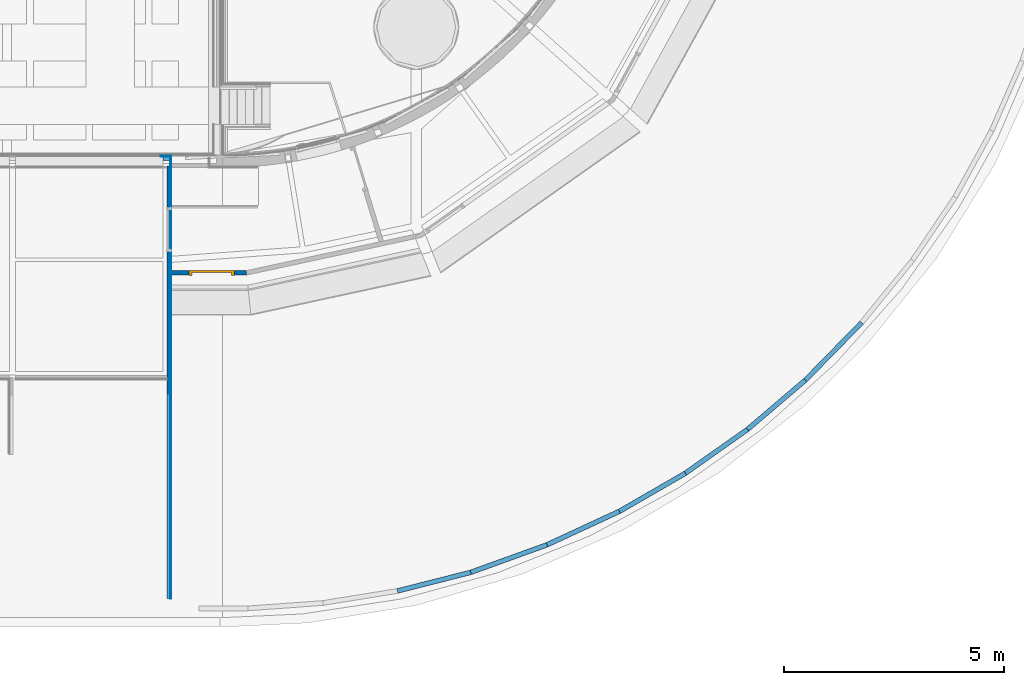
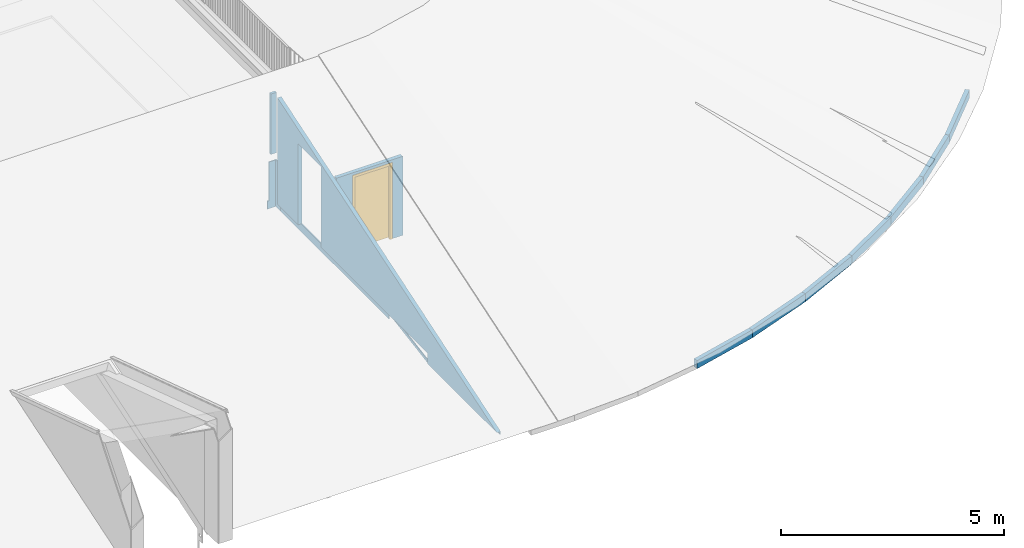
# One storey, part 27 of 66: 13 walls, 1 door, 6 openings.
"""IFC2X3 building model written with IfcOpenShell, lengths in millimetres."""

from ifc_helpers import new_model, entity, si_unit, converted_unit, derived_unit, direction, frame, frame_2d, origin, place, context, subcontext, project, spatial, polyline, rectangle, outline, extrude, clip, halfspace, faceted_brep, source, transform, mapped, material, material_list, layer, layer_set, layer_usage, type_object, type_shapes, element, fill, save


model = new_model("IFC2X3")

# Units and contexts
model_context = context("Model", 3, precision=0.01, world=origin(), true_north=direction((6.12303176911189e-17, 1.0)))
body_context = subcontext(model_context, "Body", "Model", "MODEL_VIEW")
ifc_project = project(units=[si_unit("LENGTHUNIT", "METRE", prefix="MILLI"), si_unit("AREAUNIT", "SQUARE_METRE"), si_unit("VOLUMEUNIT", "CUBIC_METRE"), converted_unit("PLANEANGLEUNIT", "DEGREE", entity("IfcRatioMeasure", 0.0174532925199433), si_unit("PLANEANGLEUNIT", "RADIAN"), dimensions=[0, 0, 0, 0, 0, 0, 0]), si_unit("MASSUNIT", "GRAM", prefix="KILO"), derived_unit("MASSDENSITYUNIT", [(si_unit("MASSUNIT", "GRAM", prefix="KILO"), 1), (si_unit("LENGTHUNIT", "METRE"), -3)]), derived_unit("MOMENTOFINERTIAUNIT", [(si_unit("LENGTHUNIT", "METRE"), 4)]), si_unit("TIMEUNIT", "SECOND"), si_unit("FREQUENCYUNIT", "HERTZ"), si_unit("THERMODYNAMICTEMPERATUREUNIT", "DEGREE_CELSIUS"), derived_unit("THERMALTRANSMITTANCEUNIT", [(si_unit("MASSUNIT", "GRAM", prefix="KILO"), 1), (si_unit("THERMODYNAMICTEMPERATUREUNIT", "KELVIN"), -1), (si_unit("TIMEUNIT", "SECOND"), -3)]), derived_unit("VOLUMETRICFLOWRATEUNIT", [(si_unit("LENGTHUNIT", "METRE"), 3), (si_unit("TIMEUNIT", "SECOND"), -1)]), si_unit("ELECTRICCURRENTUNIT", "AMPERE"), si_unit("ELECTRICVOLTAGEUNIT", "VOLT"), si_unit("POWERUNIT", "WATT"), si_unit("FORCEUNIT", "NEWTON", prefix="KILO"), si_unit("ILLUMINANCEUNIT", "LUX"), si_unit("LUMINOUSFLUXUNIT", "LUMEN"), si_unit("LUMINOUSINTENSITYUNIT", "CANDELA"), derived_unit("USERDEFINED", [(si_unit("MASSUNIT", "GRAM", prefix="KILO"), -1), (si_unit("LENGTHUNIT", "METRE"), -2), (si_unit("TIMEUNIT", "SECOND"), 3), (si_unit("LUMINOUSFLUXUNIT", "LUMEN"), 1)]), derived_unit("LINEARVELOCITYUNIT", [(si_unit("LENGTHUNIT", "METRE"), 1), (si_unit("TIMEUNIT", "SECOND"), -1)]), si_unit("PRESSUREUNIT", "PASCAL"), derived_unit("USERDEFINED", [(si_unit("LENGTHUNIT", "METRE"), -2), (si_unit("MASSUNIT", "GRAM", prefix="KILO"), 1), (si_unit("TIMEUNIT", "SECOND"), -2)]), derived_unit("LINEARFORCEUNIT", [(si_unit("MASSUNIT", "GRAM", prefix="KILO"), 1), (si_unit("LENGTHUNIT", "METRE"), 1), (si_unit("TIMEUNIT", "SECOND"), -2), (si_unit("LENGTHUNIT", "METRE"), -1)]), derived_unit("PLANARFORCEUNIT", [(si_unit("MASSUNIT", "GRAM", prefix="KILO"), 1), (si_unit("LENGTHUNIT", "METRE"), 1), (si_unit("TIMEUNIT", "SECOND"), -2), (si_unit("LENGTHUNIT", "METRE"), -2)])], contexts=[model_context])

# Site, building, storey
site_placement = place(None, origin())
site = spatial("IfcSite", under=ifc_project, at=site_placement, Name="Default", CompositionType="ELEMENT")
building_placement = place(site_placement, origin())
building = spatial("IfcBuilding", under=site, at=building_placement, Name="-", CompositionType="ELEMENT")
storey_placement = place(building_placement, frame((0.0, 0.0, 3070.0)))
storey = spatial("IfcBuildingStorey", under=building, at=storey_placement, Name="01 eerste verdieping", CompositionType="ELEMENT", Elevation=3070.00000000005)

# Walls
ifc_material_1 = material(Name="NLRS_i4_hout_multiplex")
ifc_layer_1 = layer(ifc_material_1, 9.0)
ifc_material_2 = material(Name="NLRS_m1_isolatie")
ifc_layer_2 = layer(ifc_material_2, 89.0)
ifc_layer_3 = layer(ifc_material_1, 9.0)
ifc_layer_set_1 = layer_set([ifc_layer_1, ifc_layer_2, ifc_layer_3], Name="Basic Wall:NLRS_21_WA_HSB-wand_110mm")
ifc_layer_usage_1 = layer_usage(ifc_layer_set_1, "AXIS2", "NEGATIVE", 53.5)
wall_type_1 = type_object("IfcWallType", Name="Basic Wall:NLRS_21_WA_HSB-wand_110mm", PredefinedType="STANDARD", material=ifc_layer_set_1)
wall_1_placement = place(storey_placement, frame((56297.9267876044, 943.129507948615, -370.0), z_axis=(0.0, 0.0, 1.0), x_axis=(-0.969239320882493, -0.246120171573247, 0.0)))
element("IfcWallStandardCase", 1, at=wall_1_placement, inside=storey, type_object=wall_type_1, material=ifc_layer_usage_1, Name="Basic Wall:NLRS_21_WA_HSB-wand_110mm", ObjectType="Basic Wall:NLRS_21_WA_HSB-wand_110mm", context=body_context, shape_type="SweptSolid", body=[
    extrude(outline(polyline([(1720.3849009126, -53.5000000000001), (1725.11328838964, 53.5000000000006), (0.0, 53.5000000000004), (5.26109802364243, -53.5000000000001), (1720.3849009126, -53.5000000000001)])), origin(), (0.0, 0.0, 1.0), 220.000000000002),
])
ifc_layer_usage_2 = layer_usage(ifc_layer_set_1, "AXIS2", "NEGATIVE", 53.5)
wall_2_placement = place(storey_placement, frame((58030.9854901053, 1570.00564350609, -370.0), z_axis=(0.0, 0.0, 1.0), x_axis=(-0.940419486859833, -0.340016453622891, 0.0)))
element("IfcWallStandardCase", 2, at=wall_2_placement, inside=storey, type_object=wall_type_1, material=ifc_layer_usage_2, Name="Basic Wall:NLRS_21_WA_HSB-wand_110mm", ObjectType="Basic Wall:NLRS_21_WA_HSB-wand_110mm", context=body_context, shape_type="SweptSolid", body=[
    extrude(outline(polyline([(1842.93768759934, -53.5000000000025), (1848.19878562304, 53.499999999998), (0.0, 53.4999999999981), (4.60406770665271, -53.5000000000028), (1842.93768759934, -53.5000000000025)])), origin(), (0.0, 0.0, 1.0), 220.000000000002),
])
ifc_layer_usage_3 = layer_usage(ifc_layer_set_1, "AXIS2", "NEGATIVE", 53.5)
wall_3_placement = place(storey_placement, frame((59678.6542802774, 2331.74735848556, -370.0), z_axis=(0.0, 0.0, 1.0), x_axis=(-0.9077367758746, -0.419540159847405, 0.0)))
element("IfcWallStandardCase", 3, at=wall_3_placement, inside=storey, type_object=wall_type_1, material=ifc_layer_usage_3, Name="Basic Wall:NLRS_21_WA_HSB-wand_110mm", ObjectType="Basic Wall:NLRS_21_WA_HSB-wand_110mm", context=body_context, shape_type="SweptSolid", body=[
    extrude(outline(polyline([(1815.2222876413, -53.5), (1819.82635534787, 53.5000000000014), (0.0, 53.5000000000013), (4.85884156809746, -53.5000000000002), (1815.2222876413, -53.5)])), origin(), (0.0, 0.0, 1.0), 220.000000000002),
])
ifc_layer_usage_4 = layer_usage(ifc_layer_set_1, "AXIS2", "NEGATIVE", 53.5)
wall_4_placement = place(storey_placement, frame((61177.2536980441, 3197.41228200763, -370.0), z_axis=(0.0, 0.0, 1.0), x_axis=(-0.865976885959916, -0.500084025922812, 0.0)))
element("IfcWallStandardCase", 4, at=wall_4_placement, inside=storey, type_object=wall_type_1, material=ifc_layer_usage_4, Name="Basic Wall:NLRS_21_WA_HSB-wand_110mm", ObjectType="Basic Wall:NLRS_21_WA_HSB-wand_110mm", context=body_context, shape_type="SweptSolid", body=[
    extrude(outline(polyline([(1730.64765862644, -53.4999999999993), (1735.50650019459, 53.4999999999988), (0.0, 53.4999999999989), (4.86175354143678, -53.4999999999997), (1730.64765862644, -53.4999999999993)])), origin(), (0.0, 0.0, 1.0), 220.000000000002),
])
ifc_layer_usage_5 = layer_usage(ifc_layer_set_1, "AXIS2", "NEGATIVE", 53.5)
wall_5_placement = place(storey_placement, frame((62589.1775839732, 4194.00488383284, -370.0), z_axis=(0.0, 0.0, 1.0), x_axis=(-0.817057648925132, -0.576555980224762, 0.0)))
element("IfcWallStandardCase", 5, at=wall_5_placement, inside=storey, type_object=wall_type_1, material=ifc_layer_usage_5, Name="Basic Wall:NLRS_21_WA_HSB-wand_110mm", ObjectType="Basic Wall:NLRS_21_WA_HSB-wand_110mm", context=body_context, shape_type="SweptSolid", body=[
    extrude(outline(polyline([(1728.20461863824, -53.4999999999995), (1733.06637217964, 53.4999999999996), (0.0, 53.4999999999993), (4.8588415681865, -53.4999999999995), (1728.20461863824, -53.4999999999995)])), origin(), (0.0, 0.0, 1.0), 220.000000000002),
])
ifc_layer_usage_6 = layer_usage(ifc_layer_set_1, "AXIS2", "NEGATIVE", 53.5)
wall_6_placement = place(storey_placement, frame((63904.9722117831, 5314.46647797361, -370.0), z_axis=(0.0, 0.0, 1.0), x_axis=(-0.761440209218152, -0.648235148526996, 0.0)))
element("IfcWallStandardCase", 6, at=wall_6_placement, inside=storey, type_object=wall_type_1, material=ifc_layer_usage_6, Name="Basic Wall:NLRS_21_WA_HSB-wand_110mm", ObjectType="Basic Wall:NLRS_21_WA_HSB-wand_110mm", context=body_context, shape_type="SweptSolid", body=[
    extrude(outline(polyline([(1728.21152605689, -53.499999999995), (1733.07036762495, 53.5000000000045), (0.0, 53.5000000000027), (4.8588415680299, -53.4999999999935), (1728.21152605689, -53.499999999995)])), origin(), (0.0, 0.0, 1.0), 220.000000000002),
])
ifc_layer_usage_7 = layer_usage(ifc_layer_set_1, "AXIS2", "NEGATIVE", 53.5)
wall_7_placement = place(storey_placement, frame((65185.3589787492, 6622.66505655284, -370.0), z_axis=(0.0, 0.0, 1.0), x_axis=(-0.699555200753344, -0.714578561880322, 0.0)))
element("IfcWallStandardCase", 7, at=wall_7_placement, inside=storey, type_object=wall_type_1, material=ifc_layer_usage_7, Name="Basic Wall:NLRS_21_WA_HSB-wand_110mm", ObjectType="Basic Wall:NLRS_21_WA_HSB-wand_110mm", context=body_context, shape_type="SweptSolid", body=[
    extrude(outline(polyline([(1830.50188221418, -53.4999999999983), (1835.36072378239, 53.4999999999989), (0.0, 53.4999999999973), (4.85301764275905, -53.4999999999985), (1830.50188221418, -53.4999999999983)])), origin(), (0.0, 0.0, 1.0), 220.000000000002),
])

# Wall, openings
ifc_material_3 = material(Name="NLRS_f7_gipsplaat_gen")
ifc_layer_4 = layer(ifc_material_3, 12.5)
ifc_layer_5 = layer(ifc_material_2, 75.0)
ifc_layer_6 = layer(ifc_material_3, 12.5)
ifc_layer_set_2 = layer_set([ifc_layer_4, ifc_layer_5, ifc_layer_6], Name="Basic Wall:NLRS_21_WA_Metalstud 100mm")
ifc_layer_usage_8 = layer_usage(ifc_layer_set_2, "AXIS2", "NEGATIVE", 50.0)
wall_type_2 = type_object("IfcWallType", Name="Basic Wall:NLRS_21_WA_Metalstud 100mm", PredefinedType="STANDARD", material=ifc_layer_set_2)
wall_8_placement = place(storey_placement, frame((49431.6203901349, 10179.532207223, -207.999811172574), z_axis=(0.0, 0.0, 1.0), x_axis=(0.0, -1.0, 0.0)))
wall_8 = element("IfcWallStandardCase", 8, at=wall_8_placement, inside=storey, type_object=wall_type_2, material=ifc_layer_usage_8, Name="Basic Wall:NLRS_21_WA_Metalstud 100mm", ObjectType="Basic Wall:NLRS_21_WA_Metalstud 100mm", context=body_context, shape_type="Clipping", body=[
    clip(extrude(rectangle(XDim=9837.42549744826, YDim=99.9999999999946, at=frame_2d((4918.71274872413, -8.5265128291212e-13), x_axis=(-1.0, 0.0))), origin(), (0.0, 0.0, 1.0), 3201.4676916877), halfspace(frame((0.0, -50.0, 3201.4676916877), z_axis=(0.3094623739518, 0.0, 0.950911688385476), x_axis=(0.0, 1.0, 0.0)), False)),
])
opening_1_placement = place(wall_8_placement, origin())
element("IfcOpeningElement", 9, at=opening_1_placement, cuts=wall_8, Name="Basic Wall:NLRS_21_WA_Metalstud 100mm", ObjectType="Opening", context=body_context, shape_type="SweptSolid", body=[
    extrude(rectangle(XDim=289.999811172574, YDim=6723.77109091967, at=frame_2d((-2.70006239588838e-13, 6.82121026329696e-13), x_axis=(1.0, 0.0))), frame((3361.88554545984, 50.0, 144.999905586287), z_axis=(0.0, -1.0, 0.0), x_axis=(0.0, 0.0, 1.0)), (0.0, 0.0, 1.0), 100.0),
])
opening_2_placement = place(wall_8_placement, frame((1948.44304372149, 50.0, 257.999811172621)))
element("IfcOpeningElement", 10, at=opening_2_placement, cuts=wall_8, Name="AL_32.i_Binnenkozijn-enkeledeur_Rechtsdraaiend:Merk a (2100mm hoog) brandwerend:1", ObjectType="Opening", context=body_context, shape_type="SweptSolid", body=[
    extrude(rectangle(XDim=2242.00000000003, YDim=1017.99999999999, at=frame_2d((1121.00000000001, 508.999999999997), x_axis=(1.0, 0.0))), frame((0.0, 0.0, 0.0), z_axis=(0.0, -1.0, 0.0), x_axis=(0.0, 0.0, 1.0)), (0.0, 0.0, 1.0), 100.0),
])

# Wall, opening, door
ifc_layer_usage_9 = layer_usage(ifc_layer_set_2, "AXIS2", "NEGATIVE", 50.0)
wall_9_placement = place(storey_placement, frame((49481.6203901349, 7752.05349695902, 100.0)))
wall_9 = element("IfcWallStandardCase", 11, at=wall_9_placement, inside=storey, type_object=wall_type_2, material=ifc_layer_usage_9, Name="Basic Wall:NLRS_21_WA_Metalstud 100mm", ObjectType="Basic Wall:NLRS_21_WA_Metalstud 100mm", context=body_context, shape_type="SweptSolid", body=[
    extrude(outline(polyline([(0.0, -50.0), (1716.80099438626, -50.0), (1706.12383899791, 50.0), (0.0, 50.0), (0.0, -50.0)])), origin(), (0.0, 0.0, 1.0), 2159.66755406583),
])
opening_3_placement = place(wall_9_placement, frame((410.0, -50.0, -50.0)))
opening_3 = element("IfcOpeningElement", 12, at=opening_3_placement, cuts=wall_9, Name="AL_32.i_Binnenkozijn-enkeledeur_Rechtsdraaiend:Merk a (2000mm hoog):1", ObjectType="Opening", context=body_context, shape_type="SweptSolid", body=[
    extrude(rectangle(XDim=2142.00000000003, YDim=1034.0, at=frame_2d((1071.00000000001, 516.999999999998), x_axis=(1.0, 0.0))), frame((0.0, 0.0, 0.0), z_axis=(0.0, 1.0, 0.0), x_axis=(0.0, 0.0, 1.0)), (0.0, 0.0, 1.0), 100.0),
])
ifc_material_4 = material(Name="NLRS_i3_hout_Loofhout (hardhout) RAL 9002")
ifc_material_5 = material(Name="<Unnamed>")
ifc_material_6 = material(Name="31_Glas")
ifc_material_list = material_list([ifc_material_5, ifc_material_5, ifc_material_6, ifc_material_4])
door_style = type_object("IfcDoorStyle", Name="AL_32.i_Binnenkozijn-enkeledeur_Rechtsdraaiend:Merk a (2000mm hoog)", ConstructionType="NOTDEFINED", OperationType="SINGLE_SWING_RIGHT", ParameterTakesPrecedence=False, Sizeable=False, material=ifc_material_list)
shared_shape = source(origin(), body_context, "Body", "Brep", [
    faceted_brep([(982.0, 40.0, 75.0), (52.0, 40.0, 75.0), (52.0, 40.0, 2090.0), (982.0, 40.0, 2090.0), (982.0, 0.0, 75.0), (52.0, 0.0, 75.0), (52.0, 0.0, 2090.0), (982.0, 0.0, 2090.0)], [[[0, 1, 2, 3]], [[1, 0, 4, 5]], [[2, 1, 5, 6]], [[0, 3, 7, 4]], [[4, 7, 6, 5]], [[3, 2, 6, 7]]]),
    faceted_brep([(984.0, -7.0, 50.0), (984.0, 42.0, 50.0), (967.0, 42.0, 50.0), (967.0, 107.0, 50.0), (1034.0, 107.0, 50.0), (1034.0, 77.0, 50.0), (1025.0, 77.0, 50.0), (1025.0, 23.0, 50.0), (1034.0, 23.0, 50.0), (1034.0, -7.0, 50.0), (984.0, -7.0, 2092.0), (984.0, 42.0, 2092.0), (50.0, 42.0, 2092.0), (50.0, 42.0, 50.0), (67.0, 42.0, 50.0), (67.0, 42.0, 2075.0), (967.0, 42.0, 2075.0), (967.0, 107.0, 2075.0), (67.0, 107.0, 2075.0), (67.0, 107.0, 50.0), (0.0, 107.0, 50.0), (0.0, 107.0, 2142.0), (1034.0, 107.0, 2142.0), (1034.0, 77.0, 2142.0), (0.0, 77.0, 2142.0), (0.0, 77.0, 50.0), (9.0, 77.0, 50.0), (9.0, 77.0, 2133.0), (1025.0, 77.0, 2133.0), (1025.0, 23.0, 2133.0), (9.0, 23.0, 2133.0), (9.0, 23.0, 50.0), (0.0, 23.0, 50.0), (0.0, 23.0, 2142.0), (1034.0, 23.0, 2142.0), (1034.0, -7.0, 2142.0), (0.0, -7.0, 2142.0), (0.0, -7.0, 50.0), (50.0, -7.0, 50.0), (50.0, -7.0, 2092.0)], [[[0, 1, 2, 3, 4, 5, 6, 7, 8, 9]], [[1, 0, 10, 11]], [[2, 1, 11, 12, 13, 14, 15, 16]], [[3, 2, 16, 17]], [[4, 3, 17, 18, 19, 20, 21, 22]], [[5, 4, 22, 23]], [[6, 5, 23, 24, 25, 26, 27, 28]], [[7, 6, 28, 29]], [[8, 7, 29, 30, 31, 32, 33, 34]], [[9, 8, 34, 35]], [[0, 9, 35, 36, 37, 38, 39, 10]], [[38, 37, 32, 31, 26, 25, 20, 19, 14, 13]], [[36, 33, 32, 37]], [[30, 27, 26, 31]], [[24, 21, 20, 25]], [[18, 15, 14, 19]], [[12, 39, 38, 13]], [[17, 16, 15, 18]], [[23, 22, 21, 24]], [[35, 34, 33, 36]], [[11, 10, 39, 12]], [[29, 28, 27, 30]]]),
])
type_shapes(door_style, [shared_shape])
door_placement = place(opening_3_placement, frame((1034.0, 100.0, 0.0), z_axis=(0.0, 0.0, 1.0), x_axis=(-1.0, 0.0, 0.0)))
door = element("IfcDoor", 13, at=door_placement, inside=storey, type_object=door_style, material=ifc_material_4, Name="AL_32.i_Binnenkozijn-enkeledeur_Rechtsdraaiend:Merk a (2000mm hoog)", ObjectType="AL_32.i_Binnenkozijn-enkeledeur_Rechtsdraaiend:Merk a (2000mm hoog)", OverallHeight=2142.00000000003, OverallWidth=1034.0, context=body_context, shape_type="MappedRepresentation", body=[
    mapped(shared_shape, transform((0.0, 0.0, 0.0), scale=1.0)),
])
fill(opening_3, door)

# Wall
ifc_material_7 = material(Name="NLRS_n7_isolatie PIR_gen")
ifc_layer_7 = layer(ifc_material_7, 70.0)
ifc_layer_set_3 = layer_set([ifc_layer_7], Name="Basic Wall:NLRS_22_WA_LB_isolatie PIR 70mm")
ifc_layer_usage_10 = layer_usage(ifc_layer_set_3, "AXIS2", "NEGATIVE", 35.0)
wall_type_3 = type_object("IfcWallType", Name="Basic Wall:NLRS_22_WA_LB_isolatie PIR 70mm", PredefinedType="STANDARD", material=ifc_layer_set_3)
wall_10_placement = place(storey_placement, frame((49291.6203901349, 10347.532207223, 1390.0)))
element("IfcWallStandardCase", 14, at=wall_10_placement, inside=storey, type_object=wall_type_3, material=ifc_layer_usage_10, Name="Basic Wall:NLRS_22_WA_LB_isolatie PIR 70mm", ObjectType="Basic Wall:NLRS_22_WA_LB_isolatie PIR 70mm", context=body_context, shape_type="SweptSolid", body=[
    extrude(rectangle(XDim=140.000000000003, YDim=70.0000000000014, at=frame_2d((70.0000000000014, 2.59348098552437e-13), x_axis=(-1.0, 0.0))), origin(), (0.0, 0.0, 1.0), 1655.00000000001),
])

# Wall, openings
ifc_layer_8 = layer(ifc_material_3, 12.5)
ifc_layer_9 = layer(ifc_material_1, 10.0)
ifc_layer_set_4 = layer_set([ifc_layer_8, ifc_layer_9], Name="Basic Wall:NLRS_41_WA_Bekleding kolommen")
ifc_layer_usage_11 = layer_usage(ifc_layer_set_4, "AXIS2", "NEGATIVE", 11.25)
wall_type_4 = type_object("IfcWallType", Name="Basic Wall:NLRS_41_WA_Bekleding kolommen", PredefinedType="STANDARD", material=ifc_layer_set_4)
wall_11_placement = place(storey_placement, frame((49470.3703901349, 10179.532207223, -287.999811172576), z_axis=(0.0, 0.0, 1.0), x_axis=(0.0, -1.0, 0.0)))
wall_11 = element("IfcWallStandardCase", 15, at=wall_11_placement, inside=storey, type_object=wall_type_4, material=ifc_layer_usage_11, Name="Basic Wall:NLRS_41_WA_Bekleding kolommen", ObjectType="Basic Wall:NLRS_41_WA_Bekleding kolommen", context=body_context, shape_type="SweptSolid", body=[
    extrude(rectangle(XDim=9834.46401584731, YDim=22.5000000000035, at=frame_2d((4917.23200792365, 0.0), x_axis=(-1.0, 0.0))), origin(), (0.0, 0.0, 1.0), 369.999811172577),
])
opening_4_placement = place(wall_11_placement, origin())
element("IfcOpeningElement", 16, at=opening_4_placement, cuts=wall_11, Name="Basic Wall:NLRS_41_WA_Bekleding kolommen", ObjectType="Opening", context=body_context, shape_type="SweptSolid", body=[
    extrude(outline(polyline([(-144.999905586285, -2053.36665356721), (144.999905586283, -2053.36665356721), (144.999905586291, 2917.0870257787), (-144.999905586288, 1189.64628135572), (-144.999905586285, -2053.36665356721)])), frame((7781.0973622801, 11.2500000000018, 224.999905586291), z_axis=(0.0, -1.0, 0.0), x_axis=(0.0, 0.0, 1.0)), (0.0, 0.0, 1.0), 22.5),
])
opening_5_placement = place(wall_11_placement, origin())
element("IfcOpeningElement", 17, at=opening_5_placement, cuts=wall_11, Name="Basic Wall:NLRS_41_WA_Bekleding kolommen", ObjectType="Opening", context=body_context, shape_type="SweptSolid", body=[
    extrude(outline(polyline([(-31.4479117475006, -3260.46495780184), (117.551899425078, -3260.46495780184), (117.551899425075, 3324.31764936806), (-172.207975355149, 1598.30613311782), (-31.4479117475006, 1598.30613311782), (-31.4479117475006, -3260.46495780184)])), frame((3260.46495780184, 11.2500000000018, 117.551899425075), z_axis=(0.0, -1.0, 0.0), x_axis=(0.0, 0.0, -1.0)), (0.0, 0.0, 1.0), 22.5),
])

# Wall
ifc_layer_usage_12 = layer_usage(ifc_layer_set_4, "AXIS2", "NEGATIVE", 11.25)
wall_12_placement = place(storey_placement, frame((49470.3703901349, 10414.624095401, -139.0), z_axis=(0.0, 0.0, 1.0), x_axis=(0.0, -1.0, 0.0)))
element("IfcWallStandardCase", 18, at=wall_12_placement, inside=storey, type_object=wall_type_4, material=ifc_layer_usage_12, Name="Basic Wall:NLRS_41_WA_Bekleding kolommen", ObjectType="Basic Wall:NLRS_41_WA_Bekleding kolommen", context=body_context, shape_type="SweptSolid", body=[
    extrude(rectangle(XDim=235.091888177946, YDim=22.5000000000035, at=frame_2d((117.545944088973, 0.0), x_axis=(-1.0, 0.0))), origin(), (0.0, 0.0, 1.0), 1281.0),
])

# Wall, opening
ifc_layer_usage_13 = layer_usage(ifc_layer_set_4, "AXIS2", "NEGATIVE", 11.25)
wall_13_placement = place(storey_placement, frame((49240.9383944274, 10403.3740954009, -139.0)))
wall_13 = element("IfcWallStandardCase", 19, at=wall_13_placement, inside=storey, type_object=wall_type_4, material=ifc_layer_usage_13, Name="Basic Wall:NLRS_41_WA_Bekleding kolommen", ObjectType="Basic Wall:NLRS_41_WA_Bekleding kolommen", context=body_context, shape_type="SweptSolid", body=[
    extrude(rectangle(XDim=218.181995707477, YDim=22.4999999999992, at=frame_2d((109.090997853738, 8.56203996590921e-13), x_axis=(-1.0, 0.0))), origin(), (0.0, 0.0, 1.0), 1281.0),
])
opening_6_placement = place(wall_13_placement, origin())
element("IfcOpeningElement", 20, at=opening_6_placement, cuts=wall_13, Name="Basic Wall:NLRS_41_WA_Bekleding kolommen", ObjectType="Opening", context=body_context, shape_type="SweptSolid", body=[
    extrude(rectangle(XDim=1060.0, YDim=49.9999999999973, at=frame_2d((4.33253433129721e-12, 2.8421709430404e-13), x_axis=(0.0, 1.0))), frame((25.0, 11.2499999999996, 751.0), z_axis=(0.0, -1.0, 0.0), x_axis=(-1.0, 0.0, 0.0)), (0.0, 0.0, 1.0), 22.5),
])

save(model, "model.ifc")
